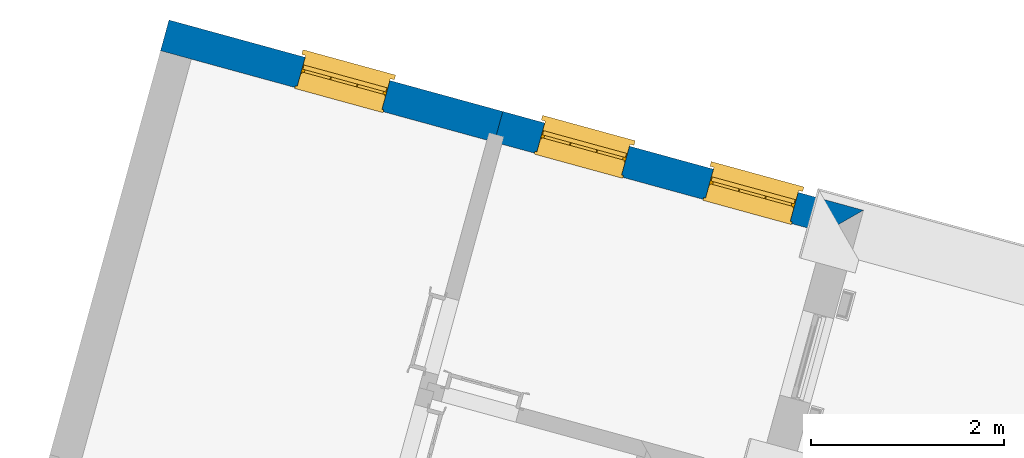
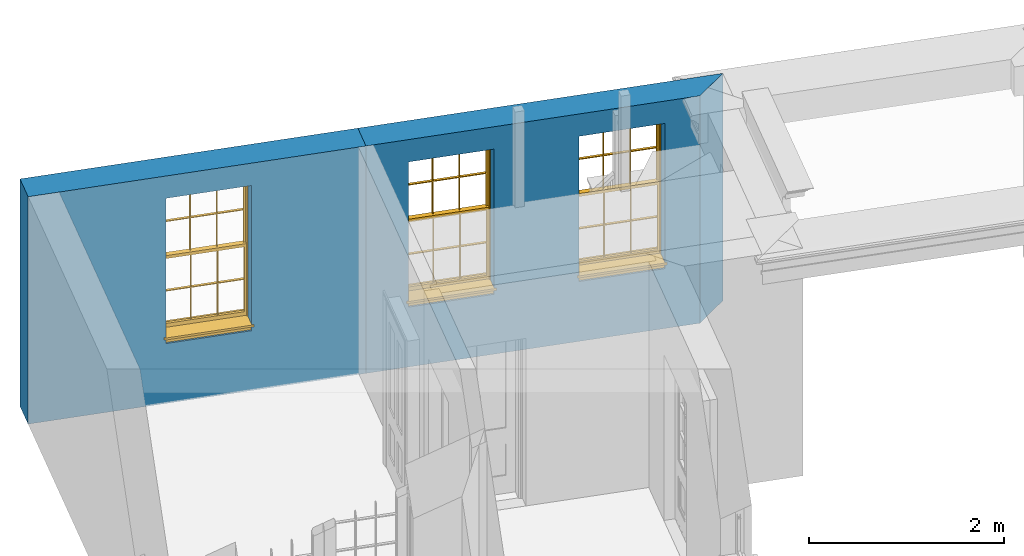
# One storey, part 6 of 7: 3 windows, 2 walls, 3 openings.
"""IFC4 building model written with IfcOpenShell, lengths in metres."""

from ifc_helpers import new_model, si_unit, frame, origin, origin_with_axes, place, context, subcontext, project, spatial, polyline, outline, extrude, faceted_brep, source, transform, mapped, material, layer, layer_set, layer_usage, type_object, type_shapes, element, fill, save


model = new_model("IFC4")

# Units and contexts
model_context = context("Model", 3, world=origin_with_axes())
body_context = subcontext(model_context, "Body", "Model", "MODEL_VIEW")
ifc_project = project(units=[si_unit("PLANEANGLEUNIT", "RADIAN"), si_unit("MASSUNIT", "GRAM", prefix="KILO"), si_unit("FORCEUNIT", "NEWTON", prefix="KILO"), si_unit("LENGTHUNIT", "METRE"), si_unit("AREAUNIT", "SQUARE_METRE"), si_unit("VOLUMEUNIT", "CUBIC_METRE")], contexts=[model_context, model_context])

# Sites, building, storey
site_1_placement = place(None, origin_with_axes())
site_1 = spatial("IfcSite", under=ifc_project, at=site_1_placement, Name="Tamar")
site_2_placement = place(site_1_placement, origin_with_axes())
site_2 = spatial("IfcSite", under=site_1, at=site_2_placement, Name="Site plot-29", CompositionType="ELEMENT")
building_placement = place(None, origin_with_axes())
building = spatial("IfcBuilding", under=site_2, at=building_placement, Name="Building plot-29", CompositionType="ELEMENT")
storey_placement = place(None, frame((0.0, 0.0, 25.0), z_axis=(0.0, 0.0, 1.0), x_axis=(1.0, 0.0, 0.0)))
storey = spatial("IfcBuildingStorey", under=building, at=storey_placement, Name="plot-29 0", CompositionType="ELEMENT", Elevation=25.0)

# Wall, openings, windows
ifc_material = material(Name="Masonry")
ifc_layer = layer(ifc_material, 0.33, ventilated=False)
ifc_layer_set = layer_set([ifc_layer], Name="exterior_0.08_0.25")
ifc_layer_usage = layer_usage(ifc_layer_set, "AXIS2", "POSITIVE", -0.25)
wall_type = type_object("IfcWallType", Name="exterior_0.08_0.25", PredefinedType="SOLIDWALL", material=ifc_layer_set)
wall_1_placement = place(storey_placement, frame((277.780324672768, 264.216076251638, 0.0), z_axis=(0.0, 0.0, 1.0), x_axis=(-0.964452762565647, 0.264255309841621, 0.0)))
wall_1 = element("IfcWall", 1, at=wall_1_placement, inside=storey, type_object=wall_type, material=ifc_layer_usage, Name="exterior", context=body_context, shape_type="SweptSolid", body=[
    extrude(outline(polyline([(0.0799999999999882, 0.0800000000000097), (-0.250000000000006, -0.249999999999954), (3.62381554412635, -0.249999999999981), (3.6238155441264, 0.0799999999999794), (0.0799999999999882, 0.0800000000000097)])), origin_with_axes(), (0.0, 0.0, 1.0), 2.85),
])
opening_1_placement = place(wall_1_placement, frame((0.45095388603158, 0.0, 0.75)))
opening_1 = element("IfcOpeningElement", 2, at=opening_1_placement, cuts=wall_1, Name="My Opening", ObjectType="Opening", context=body_context, shape_type="SweptSolid", body=[
    extrude(outline(polyline([(0.0, -0.270000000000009), (0.909999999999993, -0.27000000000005), (0.910000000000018, 1.10000000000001), (2.51465515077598e-14, 1.10000000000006), (0.0, -0.270000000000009)])), origin_with_axes(), (0.0, 0.0, 1.0), 1.82),
])
opening_2_placement = place(wall_1_placement, frame((2.26286165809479, 0.0, 0.75)))
opening_2 = element("IfcOpeningElement", 3, at=opening_2_placement, cuts=wall_1, Name="My Opening", ObjectType="Opening", context=body_context, shape_type="SweptSolid", body=[
    extrude(outline(polyline([(0.0, -0.270000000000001), (0.909999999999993, -0.270000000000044), (0.910000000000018, 1.10000000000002), (2.48689957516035e-14, 1.10000000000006), (0.0, -0.270000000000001)])), origin_with_axes(), (0.0, 0.0, 1.0), 1.82),
])
window_type = type_object("IfcWindowType", Name="sash_big", PartitioningType="DOUBLE_PANEL_HORIZONTAL", PredefinedType="NOTDEFINED")
shared_shape = source(origin(), body_context, "Body", "Brep", [
    faceted_brep([(0.033125, 0.145, 0.975209), (0.01, 0.145, 0.975209), (0.033125, 0.145, 1.376042), (0.876875, 0.145, 0.975209), (0.876875, 0.145, 1.376042), (0.9, 0.145, 0.975209), (0.876875, 0.145, 1.386042), (0.876875, 0.145, 1.786875), (0.9, 0.145, 1.81), (0.033125, 0.145, 1.786875), (0.033125, 0.145, 1.386042), (0.01, 0.145, 1.81), (0.876875, 0.115, 1.376042), (0.876875, 0.115, 0.975209), (0.9, 0.115, 0.937083), (0.033125, 0.115, 1.786875), (0.01, 0.115, 1.81), (0.033125, 0.115, 1.386042), (0.01, 0.115, 0.937083), (0.033125, 0.115, 0.975209), (0.033125, 0.115, 1.376042), (0.876875, 0.115, 1.786875), (0.876875, 0.115, 1.386042), (0.9, 0.115, 1.81), (0.033125, 0.145, 0.937083), (0.01, 0.145, 0.937083), (0.033125, 0.145, 0.53625), (0.876875, 0.145, 0.937083), (0.876875, 0.145, 0.53625), (0.9, 0.145, 0.937083), (0.876875, 0.145, 0.52625), (0.876875, 0.145, 0.125417), (0.9, 0.145, 0.077167), (0.033125, 0.145, 0.125417), (0.033125, 0.145, 0.52625), (0.01, 0.145, 0.077167), (-0.0425, 0.0, 0.01), (-0.0425, -0.05, 0.001667), (0.0, 0.0, 0.01), (0.9525, 0.0, 0.01), (0.91, 0.0, 0.01), (0.9525, -0.05, 0.001667), (-0.02, 0.33, 0.077167), (0.0, 0.33, 0.077167), (-0.02, 0.36, 0.077167), (0.0, 0.19, 0.077167), (0.01, 0.19, 0.077167), (0.91, 0.19, 0.077167), (0.91, 0.33, 0.077167), (0.9, 0.19, 0.077167), (0.93, 0.33, 0.077167), (0.93, 0.36, 0.077167), (0.01, 0.175, 0.975209), (0.9, 0.175, 0.975209), (0.876875, 0.175, 0.125417), (0.876875, 0.175, 0.52625), (0.9, 0.175, 0.077167), (0.876875, 0.175, 0.53625), (0.876875, 0.175, 0.937083), (0.033125, 0.175, 0.125417), (0.01, 0.175, 0.077167), (0.033125, 0.175, 0.52625), (0.033125, 0.175, 0.937083), (0.033125, 0.175, 0.53625), (-0.02, 0.33, 0.052167), (-0.02, 0.36, 0.052167), (0.93, 0.36, 0.052167), (0.93, 0.33, 0.052167), (0.91, 0.33, 0.052167), (0.0, 0.33, 0.052167), (0.91, 0.1, 0.026667), (0.0, 0.1, 0.026667), (-0.0425, -0.05, -0.123333), (0.9525, -0.05, -0.123333), (-0.0425, 0.0, -0.123333), (0.9525, 0.0, -0.123333), (0.01, 0.19, 1.81), (0.9, 0.19, 1.81), (0.0, 0.19, 1.82), (0.91, 0.19, 1.82), (0.01, 0.1, 0.077167), (0.9, 0.1, 0.077167), (0.592292, 0.145, 0.125417), (0.592292, 0.175, 0.125417), (0.317708, 0.175, 0.125417), (0.317708, 0.145, 0.125417), (0.592292, 0.145, 0.53625), (0.317708, 0.145, 0.53625), (0.317708, 0.145, 0.52625), (0.592292, 0.145, 0.52625), (0.592292, 0.175, 0.53625), (0.317708, 0.175, 0.53625), (0.592292, 0.115, 1.386042), (0.592292, 0.145, 1.386042), (0.317708, 0.145, 1.386042), (0.317708, 0.115, 1.386042), (0.317708, 0.115, 1.376042), (0.592292, 0.115, 1.376042), (0.317708, 0.145, 1.376042), (0.592292, 0.145, 1.376042), (0.602292, 0.115, 1.376042), (0.592292, 0.115, 0.975209), (0.602292, 0.115, 0.975209), (0.602292, 0.145, 0.975209), (0.592292, 0.145, 0.975209), (0.602292, 0.145, 1.376042), (0.602292, 0.175, 0.53625), (0.602292, 0.145, 0.53625), (0.317708, 0.175, 0.52625), (0.307708, 0.175, 0.125417), (0.307708, 0.175, 0.52625), (0.602292, 0.175, 0.52625), (0.602292, 0.175, 0.125417), (0.592292, 0.175, 0.52625), (0.307708, 0.175, 0.53625), (0.317708, 0.175, 0.937083), (0.307708, 0.175, 0.937083), (0.602292, 0.175, 0.937083), (0.592292, 0.175, 0.937083), (0.307708, 0.145, 0.52625), (0.307708, 0.145, 0.125417), (0.307708, 0.145, 0.53625), (0.307708, 0.145, 0.937083), (0.592292, 0.145, 0.937083), (0.317708, 0.145, 0.937083), (0.602292, 0.145, 0.937083), (0.602292, 0.145, 0.52625), (0.602292, 0.145, 0.125417), (0.307708, 0.115, 1.386042), (0.307708, 0.115, 1.376042), (0.307708, 0.115, 0.975209), (0.317708, 0.115, 0.975209), (0.317708, 0.115, 1.786875), (0.307708, 0.115, 1.786875), (0.602292, 0.115, 1.786875), (0.592292, 0.115, 1.786875), (0.602292, 0.115, 1.386042), (0.602292, 0.145, 1.386042), (0.307708, 0.145, 1.386042), (0.307708, 0.145, 1.786875), (0.317708, 0.145, 1.786875), (0.592292, 0.145, 1.786875), (0.602292, 0.145, 1.786875), (0.307708, 0.145, 1.376042), (0.317708, 0.145, 0.975209), (0.307708, 0.145, 0.975209), (0.91, 0.1, 1.82), (0.9, 0.1, 1.81), (0.01, 0.1, 1.81), (0.0, 0.1, 1.82), (0.91, 0.0, 0.0), (0.0, 0.0, 0.0), (0.91, 0.33, 0.0), (0.0, 0.33, 0.0)], [[[0, 1, 2]], [[3, 4, 5]], [[6, 7, 8]], [[9, 10, 11]], [[12, 13, 14]], [[15, 16, 17]], [[18, 19, 20]], [[21, 22, 23]], [[24, 25, 26]], [[27, 28, 29]], [[30, 31, 32]], [[33, 34, 35]], [[14, 27, 29]], [[25, 24, 18]], [[36, 37, 38]], [[39, 40, 41]], [[42, 43, 44]], [[45, 46, 43]], [[47, 48, 49]], [[50, 51, 48]], [[1, 0, 52]], [[5, 53, 3]], [[54, 55, 56]], [[57, 58, 53]], [[59, 60, 61]], [[62, 63, 52]], [[48, 43, 46, 49]], [[51, 44, 43, 48]], [[64, 42, 44, 65]], [[65, 44, 51, 66]], [[66, 51, 50, 67]], [[65, 66, 68, 69]], [[60, 56, 49, 46]], [[70, 71, 38, 40]], [[37, 41, 40, 38]], [[37, 72, 73, 41]], [[74, 75, 73, 72]], [[8, 11, 76, 77]], [[76, 78, 79, 77]], [[32, 35, 80, 81]], [[81, 80, 71, 70]], [[82, 83, 84, 85]], [[86, 87, 88, 89]], [[86, 90, 91, 87]], [[92, 93, 94, 95]], [[92, 95, 96, 97]], [[96, 98, 99, 97]], [[100, 97, 101, 102]], [[103, 104, 99, 105]], [[97, 99, 104, 101]], [[102, 103, 105, 100]], [[28, 57, 106, 107]], [[108, 84, 109, 110]], [[111, 112, 83, 113]], [[114, 110, 61, 63]], [[90, 113, 108, 91]], [[115, 91, 114, 116]], [[117, 106, 90, 118]], [[111, 106, 57, 55]], [[119, 110, 109, 120]], [[34, 61, 110, 119]], [[89, 113, 83, 82]], [[88, 108, 113, 89]], [[85, 84, 108, 88]], [[121, 114, 63, 26]], [[122, 116, 114, 121]], [[123, 118, 90, 86]], [[87, 91, 115, 124]], [[107, 106, 117, 125]], [[126, 111, 55, 30]], [[127, 112, 111, 126]], [[126, 30, 28, 107]], [[88, 119, 120, 85]], [[126, 89, 82, 127]], [[125, 123, 86, 107]], [[121, 26, 34, 119]], [[124, 122, 121, 87]], [[128, 17, 20, 129]], [[96, 129, 130, 131]], [[132, 133, 128, 95]], [[134, 135, 92, 136]], [[100, 12, 22, 136]], [[137, 6, 4, 105]], [[94, 138, 139, 140]], [[137, 93, 141, 142]], [[99, 98, 94, 93]], [[143, 2, 10, 138]], [[144, 145, 143, 98]], [[129, 143, 145, 130]], [[20, 2, 143, 129]], [[131, 144, 98, 96]], [[128, 138, 10, 17]], [[133, 139, 138, 128]], [[135, 141, 93, 92]], [[95, 94, 140, 132]], [[22, 6, 137, 136]], [[136, 137, 142, 134]], [[100, 105, 4, 12]], [[107, 86, 89, 126]], [[106, 111, 113, 90]], [[91, 108, 110, 114]], [[87, 121, 119, 88]], [[97, 100, 136, 92]], [[129, 96, 95, 128]], [[98, 143, 138, 94]], [[105, 99, 93, 137]], [[131, 101, 104, 144]], [[124, 115, 118, 123]], [[132, 140, 141, 135]], [[120, 109, 59, 33]], [[15, 9, 139, 133]], [[134, 142, 7, 21]], [[31, 54, 112, 127]], [[36, 74, 72, 37]], [[39, 41, 73, 75]], [[18, 14, 101, 131]], [[23, 16, 132, 135]], [[83, 56, 60, 84]], [[52, 53, 118, 115]], [[53, 52, 144, 104]], [[11, 8, 141, 140]], [[14, 18, 124, 123]], [[2, 1, 11, 10]], [[8, 5, 4, 6]], [[57, 53, 56, 55]], [[60, 52, 63, 61]], [[26, 25, 35, 34]], [[32, 29, 28, 30]], [[14, 23, 22, 12]], [[18, 20, 17, 16]], [[19, 0, 2, 20]], [[17, 10, 9, 15]], [[12, 4, 3, 13]], [[21, 7, 6, 22]], [[27, 58, 57, 28]], [[30, 55, 54, 31]], [[33, 59, 61, 34]], [[26, 63, 62, 24]], [[5, 8, 77, 53]], [[76, 11, 1, 52]], [[46, 45, 78, 76]], [[49, 77, 79, 47]], [[70, 146, 147, 81]], [[71, 80, 148, 149]], [[19, 130, 145, 0]], [[102, 13, 3, 103]], [[116, 122, 24, 62]], [[29, 32, 81, 14]], [[80, 35, 25, 18]], [[60, 46, 76, 52]], [[77, 49, 56, 53]], [[23, 14, 81, 147]], [[16, 148, 80, 18]], [[35, 85, 120]], [[120, 33, 35]], [[127, 82, 32]], [[32, 31, 127]], [[32, 82, 85, 35]], [[102, 101, 14]], [[14, 13, 102]], [[18, 131, 130]], [[130, 19, 18]], [[134, 21, 23]], [[23, 135, 134]], [[16, 15, 133]], [[133, 132, 16]], [[11, 140, 139]], [[139, 9, 11]], [[142, 141, 8]], [[8, 7, 142]], [[23, 147, 148, 16]], [[146, 149, 148, 147]], [[52, 115, 116]], [[116, 62, 52]], [[118, 53, 117]], [[58, 117, 53]], [[27, 125, 117, 58]], [[56, 83, 112]], [[112, 54, 56]], [[109, 84, 60]], [[60, 59, 109]], [[125, 27, 14]], [[14, 123, 125]], [[122, 124, 18]], [[18, 24, 122]], [[145, 144, 52]], [[52, 0, 145]], [[103, 3, 53]], [[53, 104, 103]], [[79, 78, 149, 146]], [[78, 45, 71, 149]], [[146, 70, 47, 79]], [[150, 75, 74, 151]], [[68, 66, 67]], [[48, 68, 67, 50]], [[69, 64, 65]], [[42, 64, 69, 43]], [[69, 68, 152, 153]], [[70, 68, 48, 47]], [[150, 152, 68, 70]], [[43, 69, 71, 45]], [[69, 153, 151, 71]], [[152, 150, 151, 153]], [[38, 151, 74, 36]], [[71, 151, 38]], [[39, 75, 150, 40]], [[40, 150, 70]]]),
])
type_shapes(window_type, [shared_shape])
window_1_placement = place(storey_placement, frame((277.416749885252, 264.595645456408, 0.75), z_axis=(0.0, 0.0, 1.0), x_axis=(-0.877652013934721, 0.240472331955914, 0.0)))
window_1 = element("IfcWindow", 4, at=window_1_placement, inside=storey, type_object=window_type, Name="circulation street window", OverallHeight=1.82, OverallWidth=0.91, context=body_context, shape_type="MappedRepresentation", body=[
    mapped(shared_shape, transform((0.0, 0.0, 0.0), scale=1.0)),
])
fill(opening_1, window_1)
window_2_placement = place(storey_placement, frame((275.669250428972, 265.074451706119, 0.75), z_axis=(0.0, 0.0, 1.0), x_axis=(-0.877652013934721, 0.240472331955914, 0.0)))
window_2 = element("IfcWindow", 5, at=window_2_placement, inside=storey, type_object=window_type, Name="circulation street window", OverallHeight=1.82, OverallWidth=0.91, context=body_context, shape_type="MappedRepresentation", body=[
    mapped(shared_shape, transform((0.0, 0.0, 0.0), scale=1.0)),
])
fill(opening_2, window_2)

# Wall, opening, window
wall_2_placement = place(storey_placement, frame((274.285325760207, 265.17368875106, 0.0), z_axis=(0.0, 0.0, 1.0), x_axis=(-0.96445276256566, 0.264255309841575, 0.0)))
wall_2 = element("IfcWall", 6, at=wall_2_placement, inside=storey, type_object=wall_type, material=ifc_layer_usage, Name="exterior", context=body_context, shape_type="SweptSolid", body=[
    extrude(outline(polyline([(2.80002823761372e-14, 0.0799999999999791), (-3.82318751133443e-14, -0.24999999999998), (3.58559293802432, -0.249999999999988), (3.58559293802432, 0.0800000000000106), (2.80002823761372e-14, 0.0799999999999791)])), origin_with_axes(), (0.0, 0.0, 1.0), 2.85),
])
opening_3_placement = place(wall_2_placement, frame((1.21279646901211, 0.0, 0.75)))
opening_3 = element("IfcOpeningElement", 7, at=opening_3_placement, cuts=wall_2, Name="My Opening", ObjectType="Opening", context=body_context, shape_type="SweptSolid", body=[
    extrude(outline(polyline([(0.0, -0.270000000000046), (0.910000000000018, -0.270000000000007), (0.910000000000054, 1.10000000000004), (3.61932706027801e-14, 1.10000000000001), (0.0, -0.270000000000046)])), origin_with_axes(), (0.0, 0.0, 1.0), 1.82),
])
window_3_placement = place(storey_placement, frame((273.186989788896, 265.754578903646, 0.75), z_axis=(0.0, 0.0, 1.0), x_axis=(-0.877652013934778, 0.2404723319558, 0.0)))
window_3 = element("IfcWindow", 8, at=window_3_placement, inside=storey, type_object=window_type, Name="living street window", OverallHeight=1.82, OverallWidth=0.91, context=body_context, shape_type="MappedRepresentation", body=[
    mapped(shared_shape, transform((0.0, 0.0, 0.0), scale=1.0)),
])
fill(opening_3, window_3)

save(model, "model.ifc")
